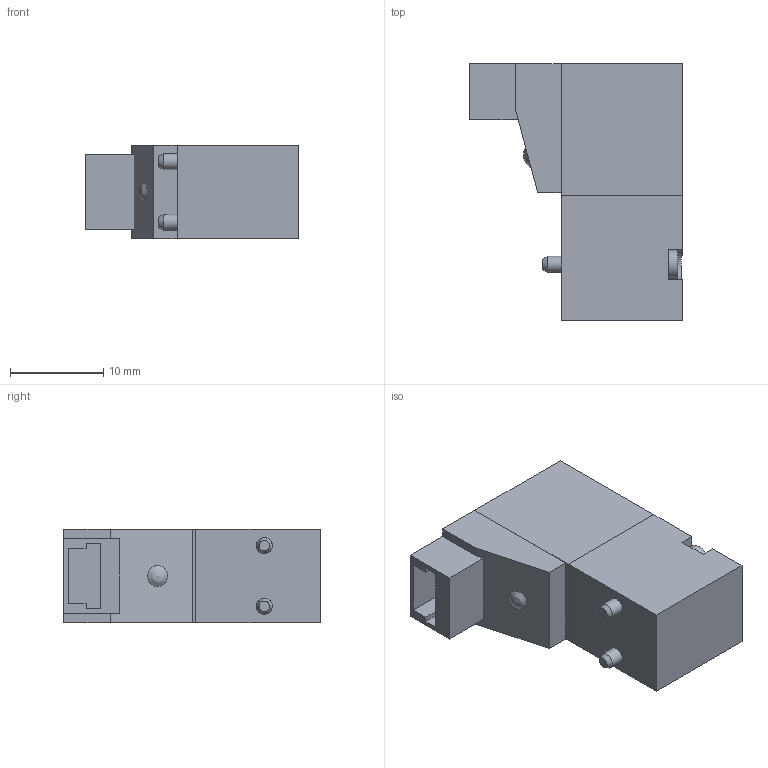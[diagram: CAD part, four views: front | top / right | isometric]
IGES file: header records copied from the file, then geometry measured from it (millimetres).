
Global section: file name: N3##_1R; native system: Autodesk Inventor 2014; preprocessor: unknown; author: A. Manieri; organization: Pneumax S.p.A.; date: 20161005.083609; units: millimetre
Bounding box: 22.8 x 27.5 x 10 mm (x, y, z)
Volume: 4249.7 mm3; surface area: 2031 mm2
Topology: 1 solids, 1 shells, 85 faces, 214 edges, 141 vertices
Faces by surface type: bspline 85
